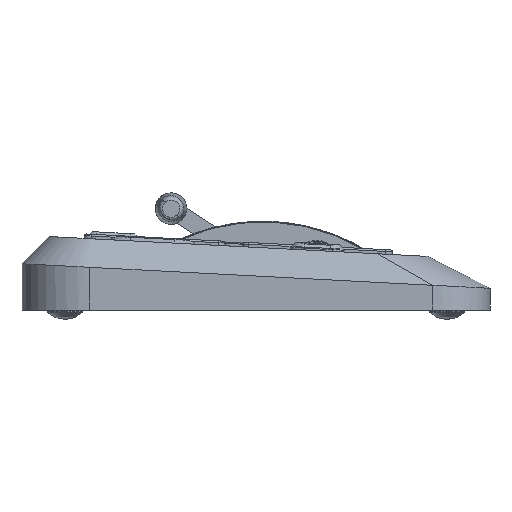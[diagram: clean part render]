
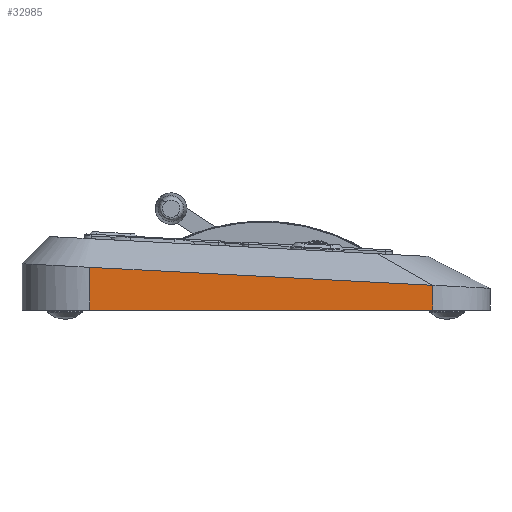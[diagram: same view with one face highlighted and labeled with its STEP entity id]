
A CAD part, left-side view. The second image highlights one B-rep face of the part: STEP entity #32985.
In plain terms, the highlighted planar face has unit normal (-1, 0, 0).
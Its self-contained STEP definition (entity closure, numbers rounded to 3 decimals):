
#902=PLANE('',#35566);
#2897=FACE_OUTER_BOUND('',#4953,.T.);
#4953=EDGE_LOOP('',(#24252,#24253,#24254,#24255));
#7234=LINE('',#52849,#10275);
#7267=LINE('',#52981,#10308);
#7268=LINE('',#52984,#10309);
#7269=LINE('',#52985,#10310);
#10275=VECTOR('',#40432,1000.);
#10308=VECTOR('',#40531,1000.);
#10309=VECTOR('',#40534,1000.);
#10310=VECTOR('',#40535,1000.);
#15227=VERTEX_POINT('',#52847);
#15228=VERTEX_POINT('',#52848);
#15252=VERTEX_POINT('',#52974);
#15253=VERTEX_POINT('',#52983);
#18585=EDGE_CURVE('',#15227,#15228,#7234,.T.);
#18632=EDGE_CURVE('',#15228,#15252,#7267,.T.);
#18633=EDGE_CURVE('',#15253,#15252,#7268,.T.);
#18634=EDGE_CURVE('',#15253,#15227,#7269,.T.);
#24252=ORIENTED_EDGE('',*,*,#18633,.F.);
#24253=ORIENTED_EDGE('',*,*,#18634,.T.);
#24254=ORIENTED_EDGE('',*,*,#18585,.T.);
#24255=ORIENTED_EDGE('',*,*,#18632,.T.);
#32985=ADVANCED_FACE('',(#2897),#902,.F.);
#35566=AXIS2_PLACEMENT_3D('',#52982,#40532,#40533);
#40432=DIRECTION('',(0.,0.,1.));
#40531=DIRECTION('',(0.,1.,0.));
#40532=DIRECTION('center_axis',(1.,0.,0.));
#40533=DIRECTION('ref_axis',(0.,0.,-1.));
#40534=DIRECTION('',(0.,-0.052,0.999));
#40535=DIRECTION('',(0.,-1.,0.));
#52847=CARTESIAN_POINT('',(-142.,0.,-46.5));
#52848=CARTESIAN_POINT('',(-142.,0.,49.5));
#52849=CARTESIAN_POINT('',(-142.,0.,-65.5));
#52974=CARTESIAN_POINT('',(-142.,6.963,49.5));
#52981=CARTESIAN_POINT('',(-142.,20.,49.5));
#52982=CARTESIAN_POINT('Origin',(-142.,20.,-65.5));
#52983=CARTESIAN_POINT('',(-142.,11.995,-46.5));
#52984=CARTESIAN_POINT('',(-142.,11.996,-46.526));
#52985=CARTESIAN_POINT('',(-142.,20.,-46.5));
